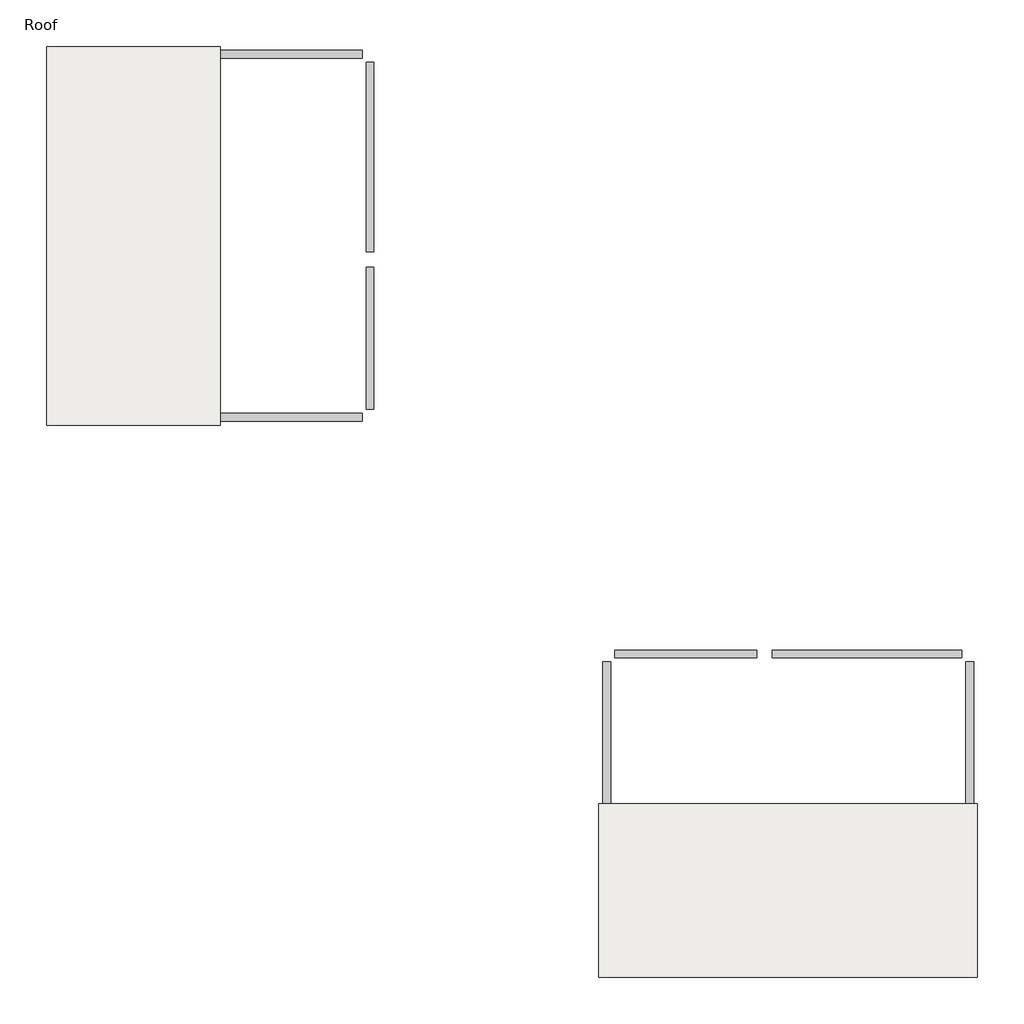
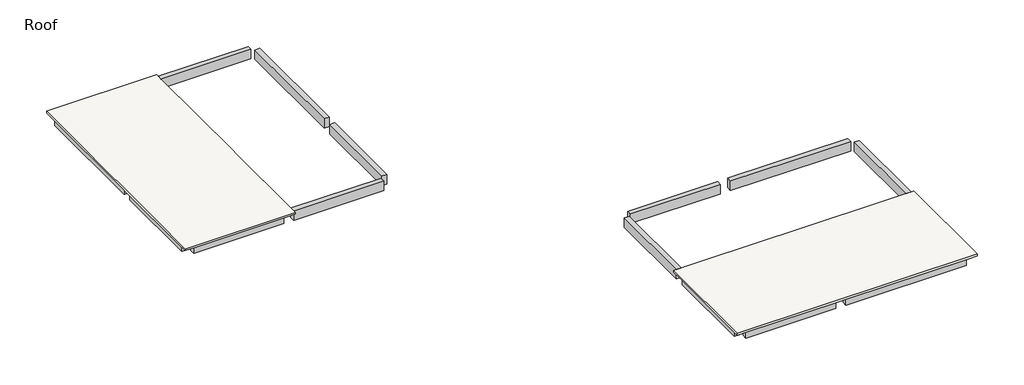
# One storey: 16 beams, 2 slabs.
"""IFC4 building model written with IfcOpenShell, lengths in millimetres."""

import ifcopenshell
import ifcopenshell.guid

model = None  # the IFC model being written
_history = None  # IfcOwnerHistory: only IFC2X3 demands one
_inside = {}  # id of a spatial element -> (the spatial element, [elements in it])
_under = {}  # id of a project, library or spatial element -> (it, [spatial elements below it])
_declared = {}  # id of a project -> (the project, [libraries it declares])
_typed = {}  # id of a type object -> (the type object, [elements of that type])
_made_of = {}  # id of a material, layer set ... -> (it, [elements and type objects made of it])


def new_model(schema):
    """Start an empty IFC model of exactly this schema.

    Asked for "IFC4X3", IfcOpenShell would pick the latest addendum, in which some entities
    have other attributes; the version numbers below select the first issue.
    IFC2X3 requires an IfcOwnerHistory on every rooted entity: one is made here for all.
    """
    global model, _history
    if schema == "IFC4X3":
        model = ifcopenshell.file(schema_version=(4, 3, 0, 0))
    else:
        model = ifcopenshell.file(schema=schema)
    _inside.clear()
    _under.clear()
    _declared.clear()
    _typed.clear()
    _made_of.clear()
    _history = None
    if model.schema == "IFC2X3":
        org = make("IfcOrganization", Name="unknown")
        user = make(
            "IfcPersonAndOrganization",
            ThePerson=make("IfcPerson", FamilyName="unknown"),
            TheOrganization=org,
        )
        app = make(
            "IfcApplication",
            ApplicationDeveloper=org,
            Version="unknown",
            ApplicationFullName="unknown",
            ApplicationIdentifier="unknown",
        )
        _history = make(
            "IfcOwnerHistory",
            OwningUser=user,
            OwningApplication=app,
            ChangeAction="ADDED",
            CreationDate=0,
        )
    return model


def make(cls, **values):
    """One entity of the class cls with the attributes given. An attribute that is None is left unset."""
    return model.create_entity(
        cls, **{name: value for name, value in values.items() if value is not None}
    )


def rooted(cls, **values):
    """An entity with a GlobalId (a new one), such as an element, a storey or a relation."""
    return make(cls, GlobalId=ifcopenshell.guid.new(), OwnerHistory=_history, **values)


def si_unit(unit_type, name, prefix=None):
    """IfcSIUnit, for example si_unit("LENGTHUNIT", "METRE", prefix="MILLI")."""
    return make("IfcSIUnit", UnitType=unit_type, Prefix=prefix, Name=name)


def assignment(units):
    """IfcUnitAssignment: the units of a project."""
    return None if units is None else make("IfcUnitAssignment", Units=units)


def point(xyz):
    """IfcCartesianPoint."""
    return None if xyz is None else make("IfcCartesianPoint", Coordinates=xyz)


def direction(xyz):
    """IfcDirection."""
    return None if xyz is None else make("IfcDirection", DirectionRatios=xyz)


def frame(location, z_axis=None, x_axis=None):
    """IfcAxis2Placement3D, a coordinate frame: its origin and axes. An axis left out is left unset."""
    return make(
        "IfcAxis2Placement3D",
        Location=point(location),
        Axis=direction(z_axis),
        RefDirection=direction(x_axis),
    )


def origin():
    """The frame at (0, 0, 0) with its axes left unset."""
    return frame((0.0, 0.0, 0.0))


def place(relative_to, where):
    """IfcLocalPlacement: puts the frame where relative to a parent placement (None: the world)."""
    return make(
        "IfcLocalPlacement", PlacementRelTo=relative_to, RelativePlacement=where
    )


def context(
    kind, dimensions, precision=None, world=None, true_north=None, identifier=None
):
    """IfcGeometricRepresentationContext, for example the 3D "Model" context."""
    return make(
        "IfcGeometricRepresentationContext",
        ContextIdentifier=identifier,
        ContextType=kind,
        CoordinateSpaceDimension=dimensions,
        Precision=precision,
        WorldCoordinateSystem=world,
        TrueNorth=true_north,
    )


def project(units=None, contexts=None):
    """IfcProject with its units and contexts."""
    return rooted(
        "IfcProject",
        Name="project",
        RepresentationContexts=contexts,
        UnitsInContext=assignment(units),
    )


def spatial(cls, under=None, at=None, **own):
    """A site, building, storey or space (cls), placed at a placement, below another one or the project."""
    s = rooted(cls, ObjectPlacement=at, **own)
    if under is not None:
        _under.setdefault(under.id(), (under, []))[1].append(s)
    return s


def polyline(points):
    """IfcPolyline through the points."""
    return make("IfcPolyline", Points=[point(p) for p in points])


def outline(outer, holes=None, kind="AREA"):
    """IfcArbitraryClosedProfileDef: a profile drawn as a closed curve; with holes, ...WithVoids."""
    if holes is None:
        return make("IfcArbitraryClosedProfileDef", ProfileType=kind, OuterCurve=outer)
    return make(
        "IfcArbitraryProfileDefWithVoids",
        ProfileType=kind,
        OuterCurve=outer,
        InnerCurves=holes,
    )


def extrude(swept, where, along, depth):
    """IfcExtrudedAreaSolid: the profile swept, set in the frame where, extruded along a direction by depth."""
    return make(
        "IfcExtrudedAreaSolid",
        SweptArea=swept,
        Position=where,
        ExtrudedDirection=direction(along),
        Depth=depth,
    )


def faces_of(points, faces, orient=None, outer=None):
    """IfcFace entities. A face is a list of loops; a loop is a list of indices into points, from 0.

    orient and outer hold one flag for each loop. By default every Orientation is true, the
    first loop of a face is its IfcFaceOuterBound and the others are IfcFaceBound.
    """
    made = []
    for i, loops in enumerate(faces):
        bounds = []
        for j, loop in enumerate(loops):
            is_outer = j == 0 if outer is None else outer[i][j]
            bounds.append(
                make(
                    "IfcFaceOuterBound" if is_outer else "IfcFaceBound",
                    Bound=make("IfcPolyLoop", Polygon=[points[k] for k in loop]),
                    Orientation=True if orient is None else orient[i][j],
                )
            )
        made.append(make("IfcFace", Bounds=bounds))
    return made


def faceted_brep(points, faces, orient=None, outer=None, voids=None):
    """IfcFacetedBrep: a solid bounded by flat faces; with voids (closed shells), ...WithVoids."""
    shared = [point(p) for p in points]
    hull = make("IfcClosedShell", CfsFaces=faces_of(shared, faces, orient, outer))
    if voids is None:
        return make("IfcFacetedBrep", Outer=hull)
    return make(
        "IfcFacetedBrepWithVoids",
        Outer=hull,
        Voids=[
            make(cls, CfsFaces=faces_of(shared, fs, o, b)) for cls, fs, o, b in voids
        ],
    )


def shape(context_of_items, identifier, shape_type, items):
    """IfcShapeRepresentation: the items that make up one representation, for example the "Body"."""
    return make(
        "IfcShapeRepresentation",
        ContextOfItems=context_of_items,
        RepresentationIdentifier=identifier,
        RepresentationType=shape_type,
        Items=items,
    )


def made_of(thing, what):
    """Note that an element or type object is made of a material, layer set ...; save() writes the relation."""
    if what is not None:
        _made_of.setdefault(what.id(), (what, []))[1].append(thing)
    return thing


def element(
    cls,
    number,
    at=None,
    inside=None,
    cuts=None,
    type_object=None,
    material=None,
    context=None,
    identifier="Body",
    shape_type=None,
    held_by="IfcProductDefinitionShape",
    body=None,
    shapes=None,
    **own,
):
    """One element of the class cls, such as IfcWall. Its Tag is "e" and its number.

    at: its placement. inside: the storey or other place that contains it. cuts: it is an
    opening in that element (IfcRelVoidsElement). A single representation is given by context,
    identifier, shape_type and body (its items); several are given by shapes. held_by: the class
    of the entity that holds the representations. save() writes the other relations.
    """
    e = rooted(cls, Tag="e%d" % number, ObjectPlacement=at, **own)
    if body is not None:
        shapes = [shape(context, identifier, shape_type, body)]
    if shapes is not None:
        e.Representation = make(held_by, Representations=shapes)
    if inside is not None:
        _inside.setdefault(inside.id(), (inside, []))[1].append(e)
    if cuts is not None:
        rooted(
            "IfcRelVoidsElement", RelatingBuildingElement=cuts, RelatedOpeningElement=e
        )
    if type_object is not None:
        _typed.setdefault(type_object.id(), (type_object, []))[1].append(e)
    return made_of(e, material)


def aggregate(whole, parts):
    """IfcRelAggregates: a whole, such as a stair, and the parts it consists of."""
    return rooted("IfcRelAggregates", RelatingObject=whole, RelatedObjects=parts)


def save(model, path):
    """Write the relations noted so far, then the file.

    IfcRelAggregates (storeys below a building ...), IfcRelContainedInSpatialStructure (elements
    in a storey), IfcRelDefinesByType, IfcRelAssociatesMaterial and IfcRelDeclares: one each for
    every whole, place, type object, material and project.
    """
    for whole, parts in _under.values():
        aggregate(whole, parts)
    for where, things in _inside.values():
        rooted(
            "IfcRelContainedInSpatialStructure",
            RelatedElements=things,
            RelatingStructure=where,
        )
    for kind, things in _typed.values():
        rooted("IfcRelDefinesByType", RelatedObjects=things, RelatingType=kind)
    for what, things in _made_of.values():
        rooted("IfcRelAssociatesMaterial", RelatedObjects=things, RelatingMaterial=what)
    for by, libraries in _declared.values():
        rooted("IfcRelDeclares", RelatingContext=by, RelatedDefinitions=libraries)
    model.write(path)


model = new_model("IFC4")

# Units and contexts
model_context = context("Model", 3, world=origin())
ifc_project = project(units=[si_unit("LENGTHUNIT", "METRE", prefix="MILLI")], contexts=[model_context])

# Site, building, storey
site = spatial("IfcSite", under=ifc_project)
building = spatial("IfcBuilding", under=site)
storey = spatial("IfcBuildingStorey", under=building, Name="Roof", Elevation=7315.2)

# Beams
placement = place(None, origin())
element("IfcBeam", 1, ObjectType="Concrete-Rectangular Beam : 12 x 24", at=placement, inside=storey, context=model_context, shape_type="SweptSolid", body=[
    extrude(outline(polyline([(-35055.8783408, 12274.6963551), (-40542.2783408, 12274.6963551), (-40542.2783408, 12579.4963551), (-35055.8783408, 12579.4963551), (-35055.8783408, 12274.6963551)])), frame((0.0, 0.0, 6705.6), z_axis=(0.0, 0.0, 1.0), x_axis=(1.0, 0.0, 0.0)), (0.0, 0.0, 1.0), 488.95),
])
element("IfcBeam", 2, ObjectType="Concrete-Rectangular Beam : 12 x 24", at=placement, inside=storey, context=model_context, shape_type="SweptSolid", body=[
    extrude(outline(polyline([(-34446.2783408, 12274.6963551), (-34446.2783408, 12579.4963551), (-28959.8783408, 12579.4963551), (-28959.8783408, 12274.6963551), (-34446.2783408, 12274.6963551)])), frame((0.0, 0.0, 6705.6), z_axis=(0.0, 0.0, 1.0), x_axis=(1.0, 0.0, 0.0)), (0.0, 0.0, 1.0), 609.6),
])
element("IfcBeam", 3, ObjectType="Concrete-Rectangular Beam : 12 x 24", at=placement, inside=storey, context=model_context, shape_type="SweptSolid", body=[
    extrude(outline(polyline([(-28502.6783408, 4807.0963551), (-28807.4783408, 4807.0963551), (-28807.4783408, 12122.2963551), (-28502.6783408, 12122.2963551), (-28502.6783408, 4807.0963551)])), frame((0.0, 0.0, 6705.6), z_axis=(0.0, 0.0, 1.0), x_axis=(1.0, 0.0, 0.0)), (0.0, 0.0, 1.0), 609.6),
])
element("IfcBeam", 4, ObjectType="Concrete-Rectangular Beam : 12 x 24", at=placement, inside=storey, context=model_context, shape_type="SweptSolid", body=[
    extrude(outline(polyline([(-28807.4783408, 4197.4963551), (-28502.6783408, 4197.4963551), (-28502.6783408, -1288.9036449), (-28807.4783408, -1288.9036449), (-28807.4783408, 4197.4963551)])), frame((0.0, 0.0, 6705.6), z_axis=(0.0, 0.0, 1.0), x_axis=(1.0, 0.0, 0.0)), (0.0, 0.0, 1.0), 609.6),
])
element("IfcBeam", 5, ObjectType="Concrete-Rectangular Beam : 12 x 24", at=placement, inside=storey, context=model_context, shape_type="SweptSolid", body=[
    extrude(outline(polyline([(-34446.2783408, -1746.1036449), (-34446.2783408, -1441.3036449), (-28959.8783408, -1441.3036449), (-28959.8783408, -1746.1036449), (-34446.2783408, -1746.1036449)])), frame((0.0, 0.0, 6705.6), z_axis=(0.0, 0.0, 1.0), x_axis=(1.0, 0.0, 0.0)), (0.0, 0.0, 1.0), 609.6),
])
element("IfcBeam", 6, ObjectType="Concrete-Rectangular Beam : 12 x 24", at=placement, inside=storey, context=model_context, shape_type="SweptSolid", body=[
    extrude(outline(polyline([(-40542.2783408, -1441.3036449), (-35055.8783408, -1441.3036449), (-35055.8783408, -1746.1036449), (-40542.2783408, -1746.1036449), (-40542.2783408, -1441.3036449)])), frame((0.0, 0.0, 6705.6), z_axis=(0.0, 0.0, 1.0), x_axis=(1.0, 0.0, 0.0)), (0.0, 0.0, 1.0), 488.95),
])
element("IfcBeam", 7, ObjectType="Concrete-Rectangular Beam : 12 x 24", at=placement, inside=storey, context=model_context, shape_type="SweptSolid", body=[
    extrude(outline(polyline([(-40694.6783408, 4197.4963551), (-40694.6783408, -1288.9036449), (-40999.4783408, -1288.9036449), (-40999.4783408, 4197.4963551), (-40694.6783408, 4197.4963551)])), frame((0.0, 0.0, 6705.6), z_axis=(0.0, 0.0, 1.0), x_axis=(1.0, 0.0, 0.0)), (0.0, 0.0, 1.0), 488.95),
])
element("IfcBeam", 8, ObjectType="Concrete-Rectangular Beam : 12 x 24", at=placement, inside=storey, context=model_context, shape_type="SweptSolid", body=[
    extrude(outline(polyline([(-40694.6783408, 12122.2963551), (-40694.6783408, 4807.0963551), (-40999.4783408, 4807.0963551), (-40999.4783408, 12122.2963551), (-40694.6783408, 12122.2963551)])), frame((0.0, 0.0, 6705.6), z_axis=(0.0, 0.0, 1.0), x_axis=(1.0, 0.0, 0.0)), (0.0, 0.0, 1.0), 488.95),
])
element("IfcBeam", 9, ObjectType="Concrete-Rectangular Beam : 12 x 24", at=placement, inside=storey, context=model_context, shape_type="SweptSolid", body=[
    extrude(outline(polyline([(-5337.8783408, -22624.9036449), (-5642.6783408, -22624.9036449), (-5642.6783408, -17138.5036449), (-5337.8783408, -17138.5036449), (-5337.8783408, -22624.9036449)])), frame((0.0, 0.0, 6705.6), z_axis=(0.0, 0.0, 1.0), x_axis=(1.0, 0.0, 0.0)), (0.0, 0.0, 1.0), 488.95),
])
element("IfcBeam", 10, ObjectType="Concrete-Rectangular Beam : 12 x 24", at=placement, inside=storey, context=model_context, shape_type="SweptSolid", body=[
    extrude(outline(polyline([(-5337.8783408, -16528.9036449), (-5642.6783408, -16528.9036449), (-5642.6783408, -11042.5036449), (-5337.8783408, -11042.5036449), (-5337.8783408, -16528.9036449)])), frame((0.0, 0.0, 6705.6), z_axis=(0.0, 0.0, 1.0), x_axis=(1.0, 0.0, 0.0)), (0.0, 0.0, 1.0), 609.6),
])
element("IfcBeam", 11, ObjectType="Concrete-Rectangular Beam : 12 x 24", at=placement, inside=storey, context=model_context, shape_type="SweptSolid", body=[
    extrude(outline(polyline([(-13110.2783408, -10890.1036449), (-13110.2783408, -10585.3036449), (-5795.0783408, -10585.3036449), (-5795.0783408, -10890.1036449), (-13110.2783408, -10890.1036449)])), frame((0.0, 0.0, 6705.6), z_axis=(0.0, 0.0, 1.0), x_axis=(1.0, 0.0, 0.0)), (0.0, 0.0, 1.0), 609.6),
])
element("IfcBeam", 12, ObjectType="Concrete-Rectangular Beam : 12 x 24", at=placement, inside=storey, context=model_context, shape_type="SweptSolid", body=[
    extrude(outline(polyline([(-13719.8783408, -10585.3036449), (-13719.8783408, -10890.1036449), (-19206.2783408, -10890.1036449), (-19206.2783408, -10585.3036449), (-13719.8783408, -10585.3036449)])), frame((0.0, 0.0, 6705.6), z_axis=(0.0, 0.0, 1.0), x_axis=(1.0, 0.0, 0.0)), (0.0, 0.0, 1.0), 609.6),
])
element("IfcBeam", 13, ObjectType="Concrete-Rectangular Beam : 12 x 24", at=placement, inside=storey, context=model_context, shape_type="SweptSolid", body=[
    extrude(outline(polyline([(-19358.6783408, -16528.9036449), (-19663.4783408, -16528.9036449), (-19663.4783408, -11042.5036449), (-19358.6783408, -11042.5036449), (-19358.6783408, -16528.9036449)])), frame((0.0, 0.0, 6705.6), z_axis=(0.0, 0.0, 1.0), x_axis=(1.0, 0.0, 0.0)), (0.0, 0.0, 1.0), 609.6),
])
element("IfcBeam", 14, ObjectType="Concrete-Rectangular Beam : 12 x 24", at=placement, inside=storey, context=model_context, shape_type="SweptSolid", body=[
    extrude(outline(polyline([(-19663.4783408, -17138.5036449), (-19358.6783408, -17138.5036449), (-19358.6783408, -22624.9036449), (-19663.4783408, -22624.9036449), (-19663.4783408, -17138.5036449)])), frame((0.0, 0.0, 6705.6), z_axis=(0.0, 0.0, 1.0), x_axis=(1.0, 0.0, 0.0)), (0.0, 0.0, 1.0), 488.95),
])
element("IfcBeam", 15, ObjectType="Concrete-Rectangular Beam : 12 x 24", at=placement, inside=storey, context=model_context, shape_type="SweptSolid", body=[
    extrude(outline(polyline([(-19206.2783408, -23082.1036449), (-19206.2783408, -22777.3036449), (-13719.8783408, -22777.3036449), (-13719.8783408, -23082.1036449), (-19206.2783408, -23082.1036449)])), frame((0.0, 0.0, 6705.6), z_axis=(0.0, 0.0, 1.0), x_axis=(1.0, 0.0, 0.0)), (0.0, 0.0, 1.0), 488.95),
])
element("IfcBeam", 16, ObjectType="Concrete-Rectangular Beam : 12 x 24", at=placement, inside=storey, context=model_context, shape_type="SweptSolid", body=[
    extrude(outline(polyline([(-13110.2783408, -23082.1036449), (-13110.2783408, -22777.3036449), (-5795.0783408, -22777.3036449), (-5795.0783408, -23082.1036449), (-13110.2783408, -23082.1036449)])), frame((0.0, 0.0, 6705.6), z_axis=(0.0, 0.0, 1.0), x_axis=(1.0, 0.0, 0.0)), (0.0, 0.0, 1.0), 488.95),
])

# Slabs
element("IfcSlab", 17, ObjectType="LW Concrete on Metal Deck", at=placement, inside=storey, context=model_context, shape_type="Brep", body=[
    faceted_brep([(-34446.2783408, 12731.8963551, 7194.55), (-34446.2783408, 12122.2963551, 7194.55), (-34446.2783408, 4807.0963551, 7194.55), (-34446.2783408, 4197.4963551, 7194.55), (-34446.2783408, -1288.9036449, 7194.55), (-34446.2783408, -1898.5036449, 7194.55), (-35055.8783408, -1898.5036449, 7194.55), (-40542.2783408, -1898.5036449, 7194.55), (-41151.8783408, -1898.5036449, 7194.55), (-41151.8783408, -1288.9036449, 7194.55), (-41151.8783408, 4197.4963551, 7194.55), (-41151.8783408, 4807.0963551, 7194.55), (-41151.8783408, 12122.2963551, 7194.55), (-41151.8783408, 12731.8963551, 7194.55), (-40542.2783408, 12731.8963551, 7194.55), (-35055.8783408, 12731.8963551, 7194.55), (-34446.2783408, 12731.8963551, 7315.2), (-41151.8783408, 12731.8963551, 7315.2), (-41151.8783408, -1898.5036449, 7315.2), (-34446.2783408, -1898.5036449, 7315.2), (-34446.2783408, -1746.1036449, 7315.2), (-34446.2783408, -1441.3036449, 7315.2), (-34446.2783408, 4349.8963551, 7315.2), (-34446.2783408, 4654.6963551, 7315.2), (-34446.2783408, 12274.6963551, 7315.2), (-34446.2783408, 12579.4963551, 7315.2)], [[[0, 1, 2, 3, 4, 5, 6, 7, 8, 9, 10, 11, 12, 13, 14, 15]], [[16, 17, 18, 19, 20, 21, 22, 23, 24, 25]], [[5, 4, 3, 2, 1, 0, 16, 25, 24, 23, 22, 21, 20, 19]], [[8, 7, 6, 5, 19, 18]], [[13, 12, 11, 10, 9, 8, 18, 17]], [[0, 15, 14, 13, 17, 16]]]),
])
element("IfcSlab", 18, ObjectType="LW Concrete on Metal Deck", at=placement, inside=storey, context=model_context, shape_type="Brep", body=[
    faceted_brep([(-5185.4783408, -16528.9036449, 7194.55), (-5185.4783408, -17138.5036449, 7194.55), (-5185.4783408, -22624.9036449, 7194.55), (-5185.4783408, -23234.5036449, 7194.55), (-5795.0783408, -23234.5036449, 7194.55), (-13110.2783408, -23234.5036449, 7194.55), (-13719.8783408, -23234.5036449, 7194.55), (-19206.2783408, -23234.5036449, 7194.55), (-19815.8783408, -23234.5036449, 7194.55), (-19815.8783408, -22624.9036449, 7194.55), (-19815.8783408, -17138.5036449, 7194.55), (-19815.8783408, -16528.9036449, 7194.55), (-19206.2783408, -16528.9036449, 7194.55), (-13719.8783408, -16528.9036449, 7194.55), (-13110.2783408, -16528.9036449, 7194.55), (-5795.0783408, -16528.9036449, 7194.55), (-5185.4783408, -16528.9036449, 7315.2), (-5337.8783408, -16528.9036449, 7315.2), (-5642.6783408, -16528.9036449, 7315.2), (-13262.6783408, -16528.9036449, 7315.2), (-13567.4783408, -16528.9036449, 7315.2), (-19358.6783408, -16528.9036449, 7315.2), (-19663.4783408, -16528.9036449, 7315.2), (-19815.8783408, -16528.9036449, 7315.2), (-19815.8783408, -23234.5036449, 7315.2), (-5185.4783408, -23234.5036449, 7315.2)], [[[0, 1, 2, 3, 4, 5, 6, 7, 8, 9, 10, 11, 12, 13, 14, 15]], [[16, 17, 18, 19, 20, 21, 22, 23, 24, 25]], [[0, 15, 14, 13, 12, 11, 23, 22, 21, 20, 19, 18, 17, 16]], [[11, 10, 9, 8, 24, 23]], [[8, 7, 6, 5, 4, 3, 25, 24]], [[3, 2, 1, 0, 16, 25]]]),
])

save(model, "model.ifc")
